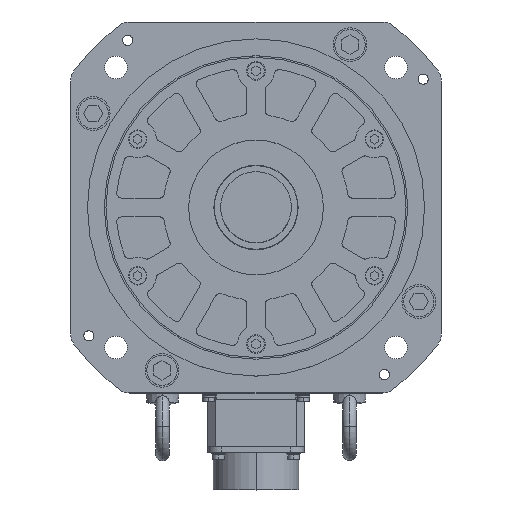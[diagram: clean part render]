
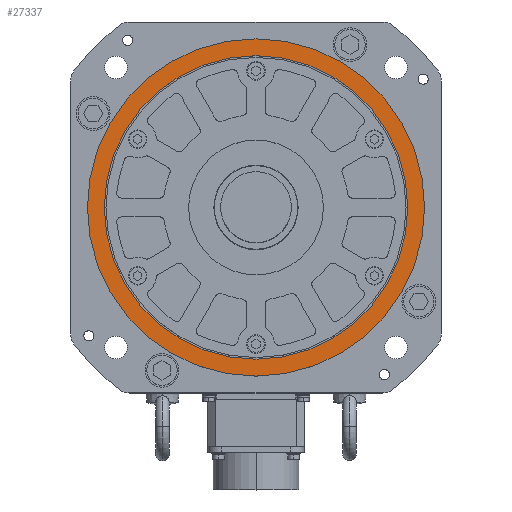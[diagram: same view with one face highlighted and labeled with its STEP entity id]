
A CAD part, top view. The second image highlights one B-rep face of the part: STEP entity #27337.
In plain terms, the highlighted planar face has unit normal (0, 0, 1).
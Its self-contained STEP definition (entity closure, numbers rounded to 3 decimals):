
#6540 = DIRECTION ( 'NONE',  ( 0., 0., 1. ) ) ;
#6541 = AXIS2_PLACEMENT_3D ( 'NONE', #6549, #6540, #6805 ) ;
#6549 = CARTESIAN_POINT ( 'NONE',  ( 0., 0., 4. ) ) ;
#6550 = PLANE ( 'NONE',  #6541 ) ;
#6805 = DIRECTION ( 'NONE',  ( 1., 0., 0. ) ) ;
#6806 = FACE_BOUND ( 'NONE', #27342, .T. ) ;
#6813 = FACE_OUTER_BOUND ( 'NONE', #27338, .T. ) ;
#6861 = DIRECTION ( 'NONE',  ( 1., 0., 0. ) ) ;
#6862 = DIRECTION ( 'NONE',  ( 0., 0., 1. ) ) ;
#6863 = CARTESIAN_POINT ( 'NONE',  ( 0., 0., 4. ) ) ;
#6864 = AXIS2_PLACEMENT_3D ( 'NONE', #6863, #6862, #6861 ) ;
#6865 = CIRCLE ( 'NONE', #6864, 90. ) ;
#6866 = DIRECTION ( 'NONE',  ( 1., 0., 0. ) ) ;
#6867 = DIRECTION ( 'NONE',  ( 0., 0., 1. ) ) ;
#6868 = CARTESIAN_POINT ( 'NONE',  ( 0., 0., 4. ) ) ;
#6869 = AXIS2_PLACEMENT_3D ( 'NONE', #6868, #6867, #6866 ) ;
#6870 = CIRCLE ( 'NONE', #6869, 100. ) ;
#11013 = CARTESIAN_POINT ( 'NONE',  ( 90., 0., 4. ) ) ;
#11014 = DIRECTION ( 'NONE',  ( 1., 0., 0. ) ) ;
#11015 = DIRECTION ( 'NONE',  ( 0., 0., 1. ) ) ;
#11016 = CARTESIAN_POINT ( 'NONE',  ( 0., 0., 4. ) ) ;
#11017 = AXIS2_PLACEMENT_3D ( 'NONE', #11016, #11015, #11014 ) ;
#11018 = CIRCLE ( 'NONE', #11017, 90. ) ;
#11019 = CARTESIAN_POINT ( 'NONE',  ( -90., 0., 4. ) ) ;
#12972 = CARTESIAN_POINT ( 'NONE',  ( -100., 0., 4. ) ) ;
#12973 = CARTESIAN_POINT ( 'NONE',  ( 100., 0., 4. ) ) ;
#12974 = DIRECTION ( 'NONE',  ( 1., 0., 0. ) ) ;
#12975 = DIRECTION ( 'NONE',  ( 0., 0., 1. ) ) ;
#12976 = AXIS2_PLACEMENT_3D ( 'NONE', #12983, #12975, #12974 ) ;
#12977 = CIRCLE ( 'NONE', #12976, 100. ) ;
#12983 = CARTESIAN_POINT ( 'NONE',  ( 0., 0., 4. ) ) ;
#27337 = ADVANCED_FACE ( 'NONE', ( #6813, #6806 ), #6550, .T. ) ;
#27338 = EDGE_LOOP ( 'NONE', ( #27339, #27341 ) ) ;
#27339 = ORIENTED_EDGE ( 'NONE', *, *, #27340, .T. ) ;
#27340 = EDGE_CURVE ( 'NONE', #35249, #35248, #6870, .T. ) ;
#27341 = ORIENTED_EDGE ( 'NONE', *, *, #35247, .T. ) ;
#27342 = EDGE_LOOP ( 'NONE', ( #27343, #27345 ) ) ;
#27343 = ORIENTED_EDGE ( 'NONE', *, *, #27344, .F. ) ;
#27344 = EDGE_CURVE ( 'NONE', #34275, #34272, #6865, .T. ) ;
#27345 = ORIENTED_EDGE ( 'NONE', *, *, #34274, .F. ) ;
#34272 = VERTEX_POINT ( 'NONE', #11019 ) ;
#34274 = EDGE_CURVE ( 'NONE', #34272, #34275, #11018, .T. ) ;
#34275 = VERTEX_POINT ( 'NONE', #11013 ) ;
#35247 = EDGE_CURVE ( 'NONE', #35248, #35249, #12977, .T. ) ;
#35248 = VERTEX_POINT ( 'NONE', #12973 ) ;
#35249 = VERTEX_POINT ( 'NONE', #12972 ) ;
